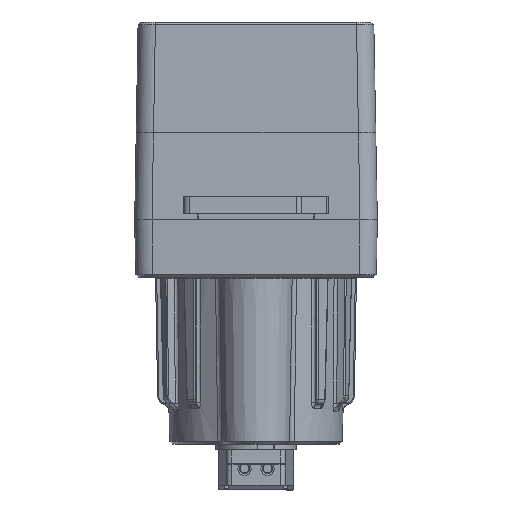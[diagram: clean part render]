
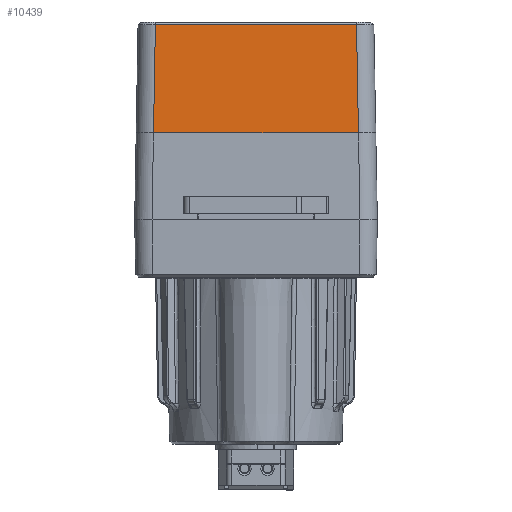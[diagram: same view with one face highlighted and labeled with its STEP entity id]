
A CAD part, left-side view. The second image highlights one B-rep face of the part: STEP entity #10439.
In plain terms, the highlighted planar face has unit normal (-1, 0, 0.018).
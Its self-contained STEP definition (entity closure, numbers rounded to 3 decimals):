
#432=LINE('',#17556,#1117);
#433=LINE('',#17564,#1118);
#434=LINE('',#17566,#1119);
#1117=VECTOR('',#12811,1000.);
#1118=VECTOR('',#12814,1000.);
#1119=VECTOR('',#12815,1000.);
#1565=PLANE('',#11187);
#2579=B_SPLINE_CURVE_WITH_KNOTS('',3,(#17507,#17508,#17509,#17510),
 .UNSPECIFIED.,.F.,.F.,(4,4),(0.,1.),.UNSPECIFIED.);
#4024=ORIENTED_EDGE('',*,*,#6791,.T.);
#4025=ORIENTED_EDGE('',*,*,#6775,.F.);
#4026=ORIENTED_EDGE('',*,*,#6789,.T.);
#4027=ORIENTED_EDGE('',*,*,#6792,.F.);
#6775=EDGE_CURVE('',#8147,#8148,#2579,.T.);
#6789=EDGE_CURVE('',#8147,#8155,#432,.T.);
#6791=EDGE_CURVE('',#8156,#8148,#433,.T.);
#6792=EDGE_CURVE('',#8156,#8155,#434,.T.);
#8147=VERTEX_POINT('',#17504);
#8148=VERTEX_POINT('',#17511);
#8155=VERTEX_POINT('',#17557);
#8156=VERTEX_POINT('',#17565);
#8930=EDGE_LOOP('',(#4024,#4025,#4026,#4027));
#9612=FACE_BOUND('',#8930,.T.);
#10439=ADVANCED_FACE('',(#9612),#1565,.T.);
#11187=AXIS2_PLACEMENT_3D('',#17563,#12812,#12813);
#12811=DIRECTION('',(0.017,0.017,1.));
#12812=DIRECTION('',(-1.,0.,0.017));
#12813=DIRECTION('',(0.,1.,0.));
#12814=DIRECTION('',(-0.017,0.017,-1.));
#12815=DIRECTION('',(0.,-1.,0.));
#17504=CARTESIAN_POINT('',(-20.734,-17.73,14.001));
#17507=CARTESIAN_POINT('',(-20.738,-17.73,14.));
#17508=CARTESIAN_POINT('',(-20.738,-5.907,14.));
#17509=CARTESIAN_POINT('',(-20.738,5.916,14.));
#17510=CARTESIAN_POINT('',(-20.738,17.739,14.));
#17511=CARTESIAN_POINT('',(-20.734,17.74,14.001));
#17556=CARTESIAN_POINT('',(-20.73,-17.72,14.001));
#17557=CARTESIAN_POINT('',(-20.404,-17.394,32.701));
#17563=CARTESIAN_POINT('',(-20.73,21.802,14.001));
#17564=CARTESIAN_POINT('',(-20.404,17.414,32.701));
#17565=CARTESIAN_POINT('',(-20.404,17.414,32.701));
#17566=CARTESIAN_POINT('',(-20.404,17.414,32.701));
